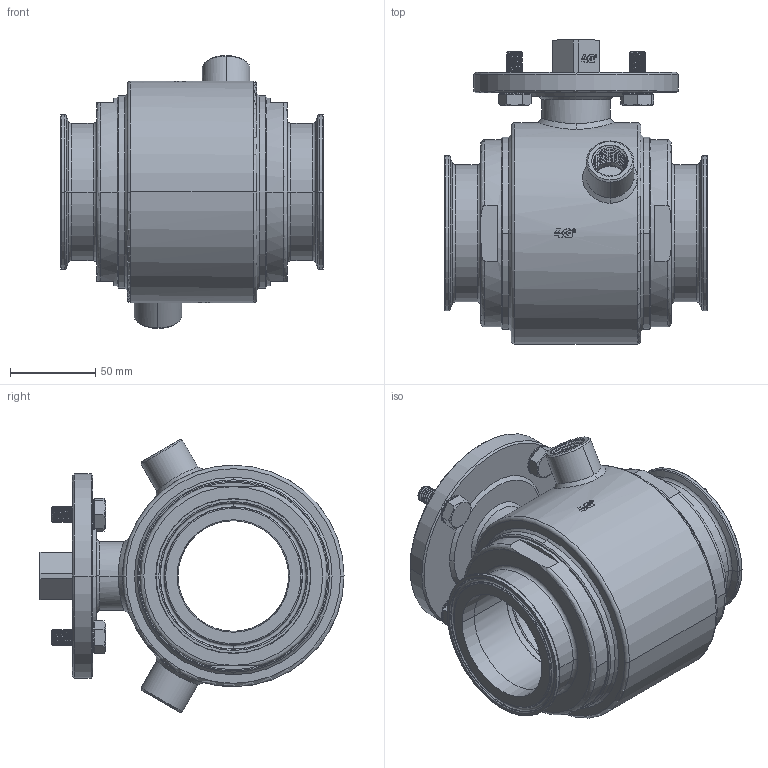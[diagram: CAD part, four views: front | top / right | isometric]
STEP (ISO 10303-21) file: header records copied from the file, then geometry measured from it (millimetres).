
FILE_DESCRIPTION((''),'2;1');
FILE_NAME('103030C6461F_SW0001','2026-03-05T16:19:42',('tecnico2'),('CDM Tecnoconsulting'),'CREO PARAMETRIC BY PTC INC, 2024063','CREO PARAMETRIC BY PTC INC, 2024063','');
FILE_SCHEMA(('CONFIG_CONTROL_DESIGN','SHAPE_APPEARANCE_LAYERS_GROUPS'));
Products named in the file (1): 103030C6461F_SW0001
Bounding box: 154 x 178.5 x 160.22 mm (x, y, z)
Volume: 986816.4 mm3; surface area: 274796.5 mm2
Topology: 1 solids, 1 shells, 2028 faces, 5567 edges, 3624 vertices
Faces by surface type: plane 843, cylinder 502, extrusion 272, cone 195, bspline 146, torus 66, sphere 4
Entity records: 174274 total; most frequent: CARTESIAN_POINT 108125, ORIENTED_EDGE 11118, DIRECTION 7974, PRESENTATION_STYLE_ASSIGNMENT 5778, STYLED_ITEM 5560, CURVE_STYLE 5559, EDGE_CURVE 5559, VERTEX_POINT 3624
